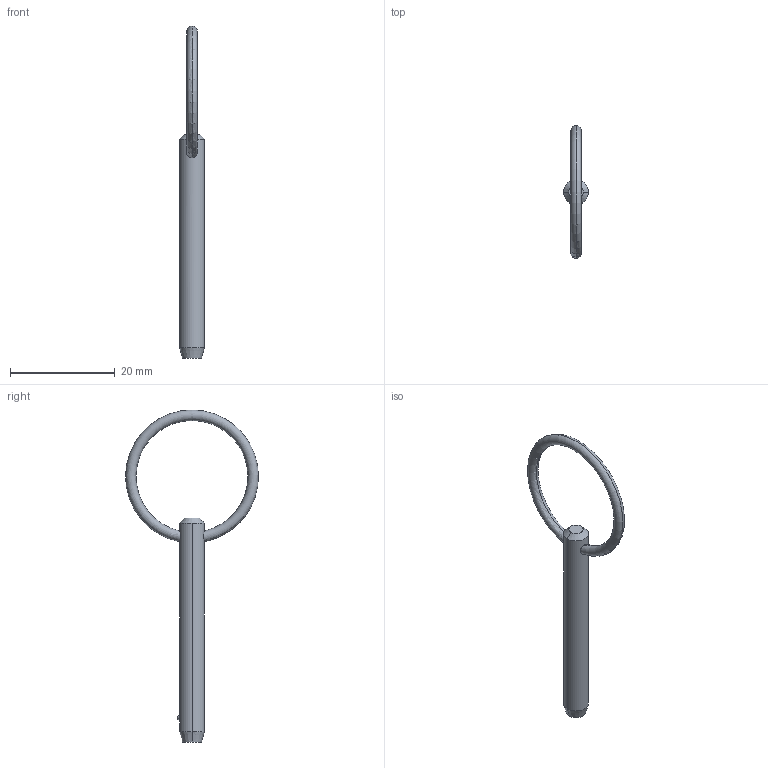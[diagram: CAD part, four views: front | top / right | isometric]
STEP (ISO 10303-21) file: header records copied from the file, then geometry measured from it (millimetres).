
FILE_DESCRIPTION (( 'STEP AP203' ), '1' );
FILE_NAME ('P1250.018-130.step', '2019-07-29T19:31:25', ( '' ), ( '' ), 'SwSTEP 2.0', 'SolidWorks 2017', '' );
FILE_SCHEMA (( 'CONFIG_CONTROL_DESIGN' ));
Length unit declared in the file: millimetre
Products named in the file (1): P1250.018-130
Bounding box: 4.76 x 25.4 x 63.48 mm (x, y, z)
Volume: 964.5 mm3; surface area: 1083.5 mm2
Topology: 1 solids, 1 shells, 12 faces, 28 edges, 17 vertices
Faces by surface type: cone 4, torus 2, sphere 2, cylinder 2, plane 2
Entity records: 471 total; most frequent: CARTESIAN_POINT 138, DIRECTION 56, ORIENTED_EDGE 48, AXIS2_PLACEMENT_3D 25, EDGE_CURVE 24, EDGE_LOOP 15, VERTEX_POINT 15, FACE_OUTER_BOUND 12
